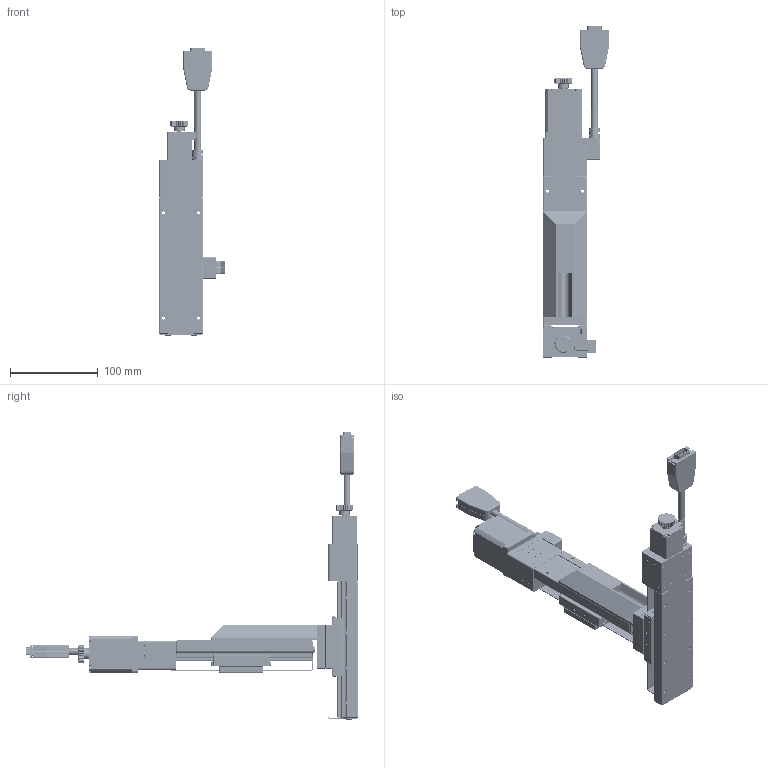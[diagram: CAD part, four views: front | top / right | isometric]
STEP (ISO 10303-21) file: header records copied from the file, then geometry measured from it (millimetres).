
FILE_DESCRIPTION (( 'STEP AP203' ), '1' );
FILE_NAME ('CXZC5075.STEP', '2023-11-28T01:29:56', ( '' ), ( '' ), 'SwSTEP 2.0', 'SolidWorks 2019', '' );
FILE_SCHEMA (( 'CONFIG_CONTROL_DESIGN' ));
Length unit declared in the file: millimetre
Products named in the file (16): SD04B006_SD04B006-SCM435(化鎳); Group2^CXZC5075-S2?N(2023新版)_defeature_GMT; CZLC5075-S2?N(2023新版)_defeature; CXC5075-S2OPAN-303_50; CXZC5075; Group2^CZLC5075-S2?N(2023新版)_defeature_GMT; SC04B012_SCM435(化鎳); SC03B012_SCM435(化鎳後耐落); CMZB50-3; Group1^CZLC5075-S2?N(2023新版)_defeature_GMT; AMZB50-1; SC03B008_SUS304(鍍鋅黑); SG02B004_SCM435(化鎳); CMZB50; CXC50-102-10; Group1^CXZC5075-S2?N(2023新版)_defeature_GMT
Assembly tree (38 placements, depth 4):
  CXZC5075
    Group1^CXZC5075-S2?N(2023新版)_defeature_GMT
    Group2^CXZC5075-S2?N(2023新版)_defeature_GMT
    SD04B006_SD04B006-SCM435(化鎳)  x2
    CXC5075-S2OPAN-303_50
    CXC50-102-10  x2
    SC03B008_SUS304(鍍鋅黑)  x4
    SG02B004_SCM435(化鎳)  x2
    CZLC5075-S2?N(2023新版)_defeature
      Group1^CZLC5075-S2?N(2023新版)_defeature_GMT
      Group2^CZLC5075-S2?N(2023新版)_defeature_GMT
      CMZB50
        AMZB50-1
        CMZB50-3
        SC04B012_SCM435(化鎳)  x2
      SC03B012_SCM435(化鎳後耐落)  x6
      SD04B006_SD04B006-SCM435(化鎳)  x2
      CXC5075-S2OPAN-303_50
      SC03B008_SUS304(鍍鋅黑)  x4
      CXC50-102-10  x2
      SG02B004_SCM435(化鎳)  x2
Bounding box: 75 x 377.6 x 328.8 mm (x, y, z)
Volume: 184082.3 mm3; surface area: 284845 mm2
Topology: 36 solids, 129 shells, 15878 faces, 40711 edges, 25179 vertices
Faces by surface type: plane 6839, cylinder 3549, bspline 2969, cone 1177, torus 968, sphere 376
Entity records: 508266 total; most frequent: CARTESIAN_POINT 165666, ORIENTED_EDGE 76502, DIRECTION 61664, EDGE_CURVE 38251, VERTEX_POINT 23991, AXIS2_PLACEMENT_3D 21365, LINE 18934, VECTOR 18934
